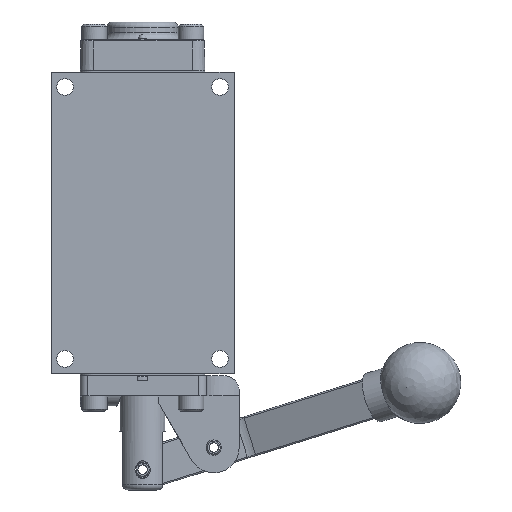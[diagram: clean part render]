
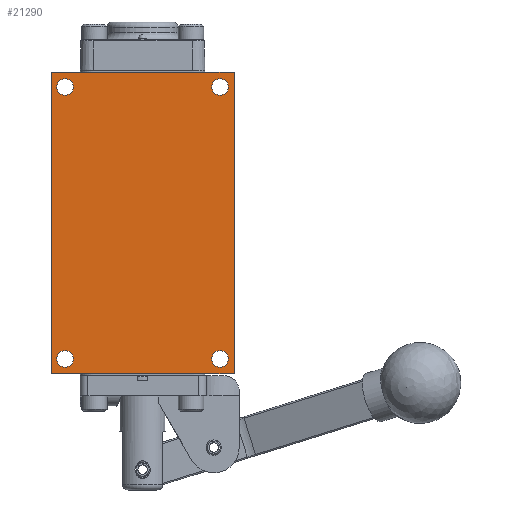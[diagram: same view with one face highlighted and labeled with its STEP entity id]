
A CAD part, front view. The second image highlights one B-rep face of the part: STEP entity #21290.
In plain terms, the highlighted planar face has unit normal (0, -1, 0).
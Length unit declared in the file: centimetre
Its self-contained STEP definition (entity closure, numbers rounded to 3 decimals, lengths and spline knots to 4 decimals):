
#1342=FACE_BOUND('',#3338,.T.);
#1343=FACE_BOUND('',#3339,.T.);
#1344=FACE_BOUND('',#3340,.T.);
#1345=FACE_BOUND('',#3341,.T.);
#2043=FACE_OUTER_BOUND('',#3337,.T.);
#3337=EDGE_LOOP('',(#15993,#15994,#15995,#15996));
#3338=EDGE_LOOP('',(#15997));
#3339=EDGE_LOOP('',(#15998));
#3340=EDGE_LOOP('',(#15999));
#3341=EDGE_LOOP('',(#16000));
#4623=CIRCLE('',#23162,0.2578);
#4624=CIRCLE('',#23163,0.2578);
#4625=CIRCLE('',#23164,0.2578);
#4626=CIRCLE('',#23165,0.2578);
#5660=LINE('',#35468,#7192);
#5661=LINE('',#35470,#7193);
#5662=LINE('',#35472,#7194);
#5663=LINE('',#35473,#7195);
#7192=VECTOR('',#27134,1.);
#7193=VECTOR('',#27135,1.);
#7194=VECTOR('',#27136,1.);
#7195=VECTOR('',#27137,1.);
#9016=VERTEX_POINT('',#35466);
#9017=VERTEX_POINT('',#35467);
#9018=VERTEX_POINT('',#35469);
#9019=VERTEX_POINT('',#35471);
#9020=VERTEX_POINT('',#35474);
#9021=VERTEX_POINT('',#35476);
#9022=VERTEX_POINT('',#35478);
#9023=VERTEX_POINT('',#35480);
#11507=EDGE_CURVE('',#9016,#9017,#5660,.T.);
#11508=EDGE_CURVE('',#9018,#9016,#5661,.T.);
#11509=EDGE_CURVE('',#9019,#9018,#5662,.T.);
#11510=EDGE_CURVE('',#9017,#9019,#5663,.T.);
#11511=EDGE_CURVE('',#9020,#9020,#4623,.T.);
#11512=EDGE_CURVE('',#9021,#9021,#4624,.T.);
#11513=EDGE_CURVE('',#9022,#9022,#4625,.T.);
#11514=EDGE_CURVE('',#9023,#9023,#4626,.T.);
#15993=ORIENTED_EDGE('',*,*,#11507,.F.);
#15994=ORIENTED_EDGE('',*,*,#11508,.F.);
#15995=ORIENTED_EDGE('',*,*,#11509,.F.);
#15996=ORIENTED_EDGE('',*,*,#11510,.F.);
#15997=ORIENTED_EDGE('',*,*,#11511,.T.);
#15998=ORIENTED_EDGE('',*,*,#11512,.T.);
#15999=ORIENTED_EDGE('',*,*,#11513,.T.);
#16000=ORIENTED_EDGE('',*,*,#11514,.T.);
#19198=PLANE('',#23161);
#21290=ADVANCED_FACE('',(#2043,#1342,#1343,#1344,#1345),#19198,.F.);
#23161=AXIS2_PLACEMENT_3D('',#35465,#27132,#27133);
#23162=AXIS2_PLACEMENT_3D('',#35475,#27138,#27139);
#23163=AXIS2_PLACEMENT_3D('',#35477,#27140,#27141);
#23164=AXIS2_PLACEMENT_3D('',#35479,#27142,#27143);
#23165=AXIS2_PLACEMENT_3D('',#35481,#27144,#27145);
#27132=DIRECTION('center_axis',(0.,1.,0.));
#27133=DIRECTION('ref_axis',(0.,0.,1.));
#27134=DIRECTION('',(0.,0.,1.));
#27135=DIRECTION('',(-1.,0.,0.));
#27136=DIRECTION('',(0.,0.,-1.));
#27137=DIRECTION('',(1.,0.,0.));
#27138=DIRECTION('center_axis',(0.,1.,0.));
#27139=DIRECTION('ref_axis',(-1.,0.,0.));
#27140=DIRECTION('center_axis',(0.,1.,0.));
#27141=DIRECTION('ref_axis',(-1.,0.,0.));
#27142=DIRECTION('center_axis',(0.,1.,0.));
#27143=DIRECTION('ref_axis',(-1.,0.,0.));
#27144=DIRECTION('center_axis',(0.,1.,0.));
#27145=DIRECTION('ref_axis',(-1.,0.,0.));
#35465=CARTESIAN_POINT('Origin',(0.,-1.6358,0.));
#35466=CARTESIAN_POINT('',(-2.8575,-1.6358,-4.7104));
#35467=CARTESIAN_POINT('',(-2.8575,-1.6358,4.7104));
#35468=CARTESIAN_POINT('',(-2.8575,-1.6358,-4.7104));
#35469=CARTESIAN_POINT('',(2.8575,-1.6358,-4.7104));
#35470=CARTESIAN_POINT('',(2.8575,-1.6358,-4.7104));
#35471=CARTESIAN_POINT('',(2.8575,-1.6358,4.7104));
#35472=CARTESIAN_POINT('',(2.8575,-1.6358,4.7104));
#35473=CARTESIAN_POINT('',(-2.8575,-1.6358,4.7104));
#35474=CARTESIAN_POINT('',(-2.1628,-1.6358,-4.2469));
#35475=CARTESIAN_POINT('Origin',(-2.4206,-1.6358,-4.2469));
#35476=CARTESIAN_POINT('',(-2.1628,-1.6358,4.2469));
#35477=CARTESIAN_POINT('Origin',(-2.4206,-1.6358,4.2469));
#35478=CARTESIAN_POINT('',(2.6784,-1.6358,-4.2469));
#35479=CARTESIAN_POINT('Origin',(2.4206,-1.6358,-4.2469));
#35480=CARTESIAN_POINT('',(2.6784,-1.6358,4.2469));
#35481=CARTESIAN_POINT('Origin',(2.4206,-1.6358,4.2469));
